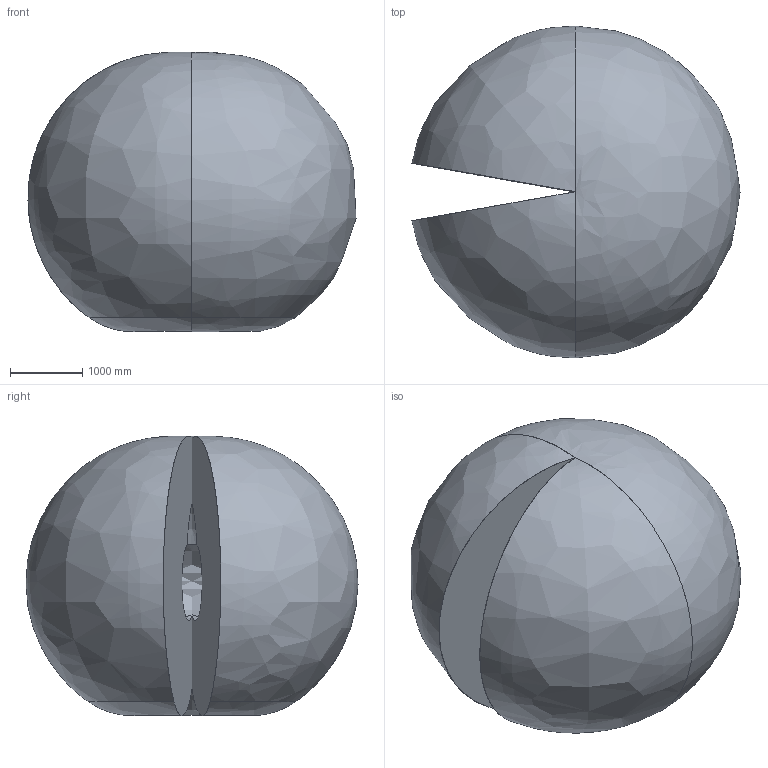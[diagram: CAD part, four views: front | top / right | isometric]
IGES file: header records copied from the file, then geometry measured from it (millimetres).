
Start section: SolidWorks IGES file using analytic representation for surfaces
Global section: file name: C:\Users\SEALDUN\OneDrive - ABB\Documents\R&D Robotics\Work Items\WI 632927\IGES\IRB5710-LID-MH_90kg-230_OC_02_IGES_J\IRB5710-LID_90kg-230_OmniCore_rev00_Working-space.igs; native system: SolidWorks 2024; preprocessor: SolidWorks 2024; author: SEALDUN; date: 250707.154229; units: millimetre
Bounding box: 4545.16 x 4599.32 x 3868.42 mm (x, y, z)
Surface area: 79291741.8 mm2 (no closed solid volume)
Topology: 0 solids, 0 shells, 14 faces, 228 edges, 216 vertices
Faces by surface type: bspline 14
